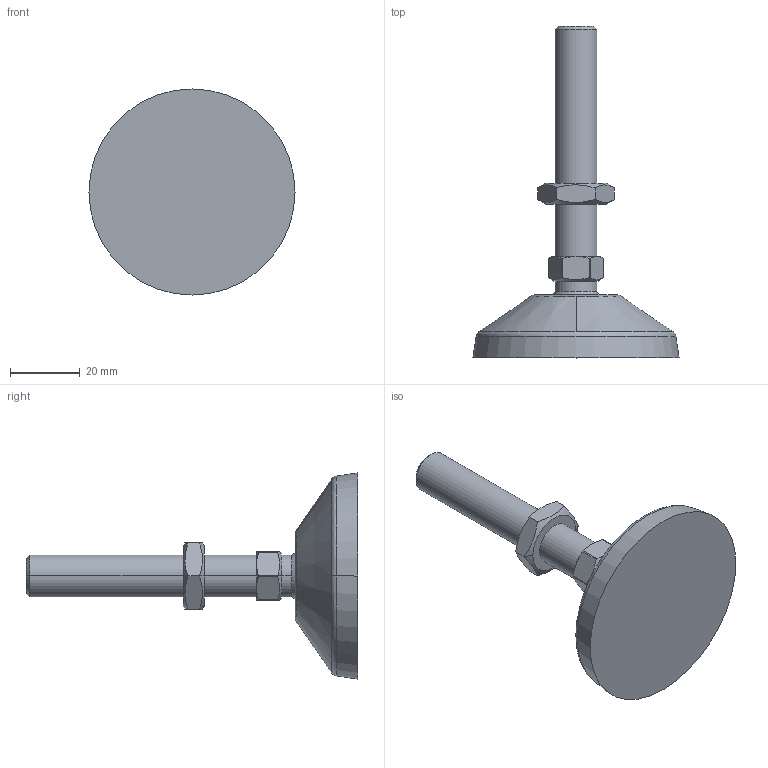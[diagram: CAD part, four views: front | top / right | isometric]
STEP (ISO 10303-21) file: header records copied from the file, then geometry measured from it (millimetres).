
FILE_DESCRIPTION (( 'STEP AP203' ), '1' );
FILE_NAME ('3002x_STE8.60M1X1X0.STEP', '2018-03-16T11:05:38', ( '' ), ( '' ), 'SwSTEP 2.0', 'SolidWorks 2017', '' );
FILE_SCHEMA (( 'CONFIG_CONTROL_DESIGN' ));
Length unit declared in the file: millimetre
Products named in the file (1): 3002x_STE8.60M1X1X0
Bounding box: 59 x 95 x 59 mm (x, y, z)
Volume: 43908.4 mm3; surface area: 10851.8 mm2
Topology: 1 solids, 1 shells, 72 faces, 166 edges, 101 vertices
Faces by surface type: plane 24, cone 19, cylinder 15, bspline 14
Entity records: 2721 total; most frequent: CARTESIAN_POINT 1108, ORIENTED_EDGE 332, DIRECTION 310, EDGE_CURVE 166, AXIS2_PLACEMENT_3D 135, VERTEX_POINT 101, EDGE_LOOP 77, CIRCLE 76
